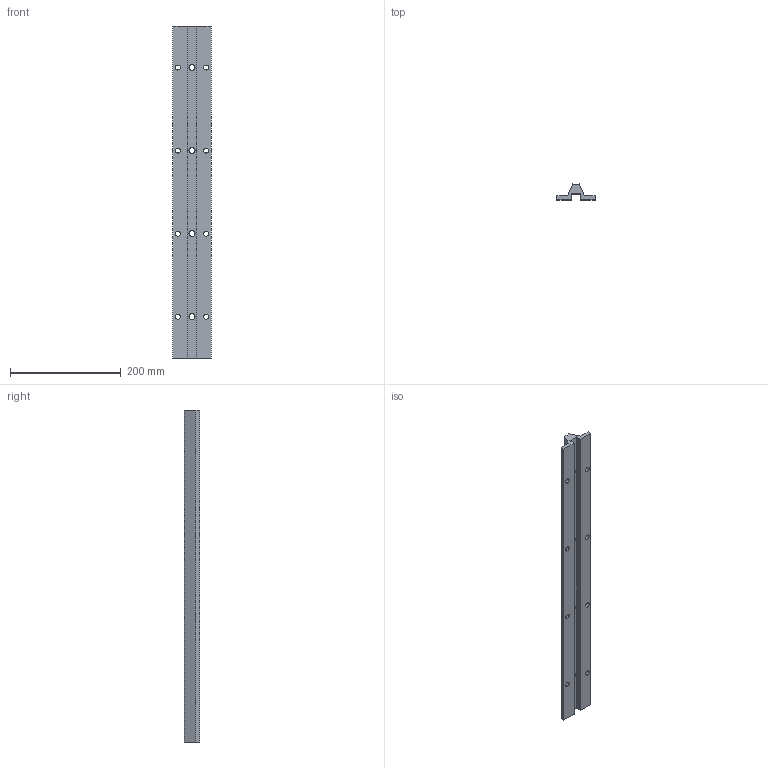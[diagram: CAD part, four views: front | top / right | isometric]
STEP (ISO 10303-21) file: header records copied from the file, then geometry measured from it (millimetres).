
FILE_DESCRIPTION (( 'STEP AP203' ), '1' );
FILE_NAME ('KWU50-30 T1-T2.step', '2020-03-23T07:54:35', ( '' ), ( '' ), 'SwSTEP 2.0', 'SolidWorks 2019', '' );
FILE_SCHEMA (( 'CONFIG_CONTROL_DESIGN' ));
Length unit declared in the file: millimetre
Products named in the file (2): KWU50-30 T1-T2
Bounding box: 69 x 28.01 x 599.5 mm (x, y, z)
Volume: 429325.1 mm3; surface area: 123668.4 mm2
Topology: 1 solids, 1 shells, 39 faces, 115 edges, 74 vertices
Faces by surface type: cylinder 24, plane 15
Entity records: 1508 total; most frequent: CARTESIAN_POINT 254, ORIENTED_EDGE 230, DIRECTION 229, EDGE_CURVE 115, AXIS2_PLACEMENT_3D 81, VERTEX_POINT 74, LINE 67, VECTOR 67
